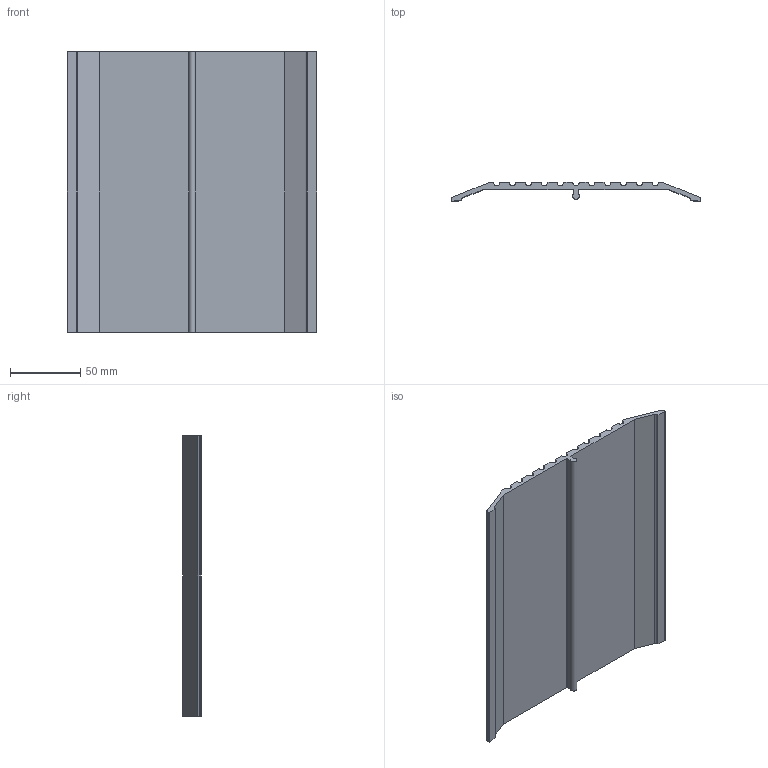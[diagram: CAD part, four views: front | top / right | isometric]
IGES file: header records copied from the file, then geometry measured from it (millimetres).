
Global section: file name: No Iges File Name specified; native system: Autodesk Inventor 2012; preprocessor: AutoDesk Inventor Iges Exporter R2012; author: anna.b; date: 20130614.141539; units: millimetre
Bounding box: 177.8 x 13.46 x 200 mm (x, y, z)
Volume: 148655.3 mm3; surface area: 84270.2 mm2
Topology: 1 solids, 1 shells, 78 faces, 228 edges, 152 vertices
Faces by surface type: cylinder 31, plane 28, revolution 19
